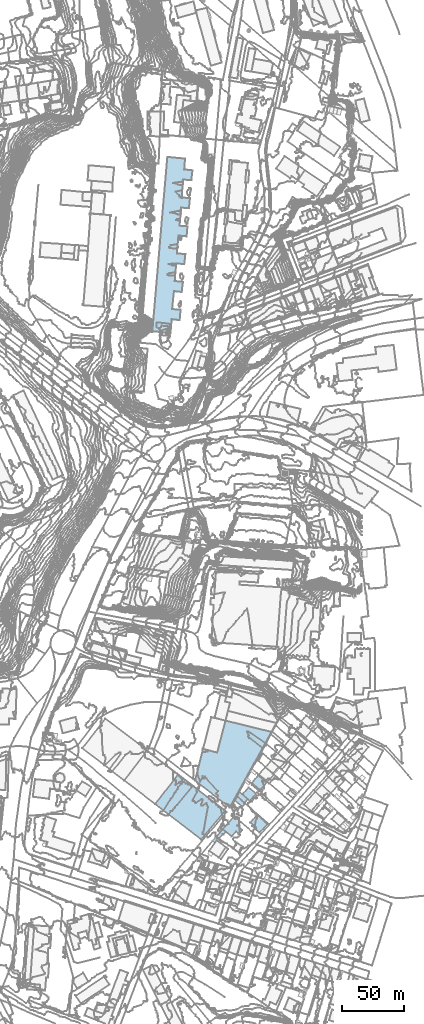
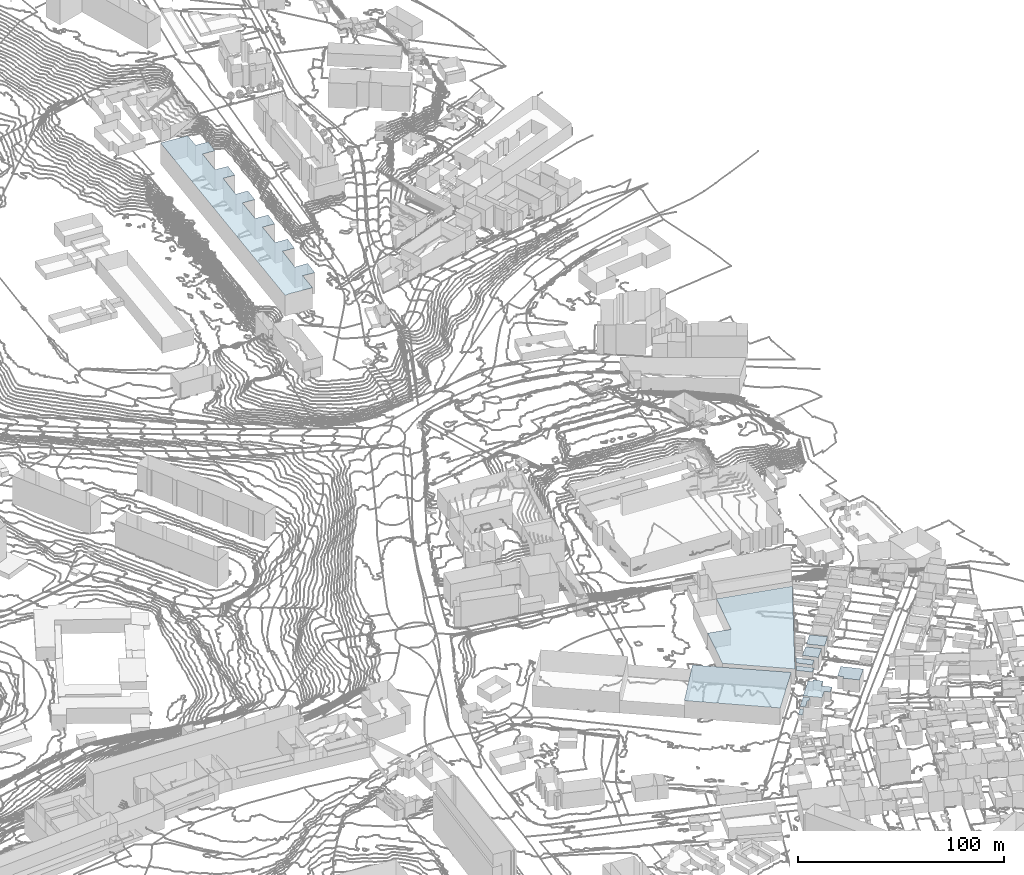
# Not in any storey, part 83 of 419: 11 roofs.
"""IFC2X3 model written with IfcOpenShell, lengths in metres."""

from ifc_helpers import new_model, si_unit, frame, origin_with_axes, place, context, subcontext, project, faceted_brep, element, save


model = new_model("IFC2X3")

# Units and contexts
model_context = context("Model", 3, precision=1e-05, world=origin_with_axes())
body_context = subcontext(model_context, "Body", "Model", "MODEL_VIEW")
ifc_project = project(units=[si_unit("AREAUNIT", "SQUARE_METRE"), si_unit("LENGTHUNIT", "METRE")], contexts=[model_context])

# Roofs
roof_1_placement = place(None, frame((885.6920204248, 239.0976909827, 79.6380020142), z_axis=(0.0, 0.0, 1.0), x_axis=(1.0, 0.0, 0.0)))
element("IfcRoof", 1, at=roof_1_placement, Name="Toiture 0", ShapeType="NOTDEFINED", context=body_context, shape_type="Brep", body=[
    faceted_brep([(13.8, -1.2000000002, 7.5619979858), (5.4, 6.2000000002, 7.5619979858), (0.0, 0.0, 7.5619979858), (2.3, -1.9000000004, 7.5619979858), (1.4, -3.0, 7.5619979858), (7.5, -8.2000000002, 7.5619979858)], [[[0, 1, 2]], [[3, 4, 5]], [[0, 2, 3]], [[3, 5, 0]]]),
])
roof_2_placement = place(None, frame((857.9920204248, 227.5976909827, 81.0899978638), z_axis=(0.0, 0.0, 1.0), x_axis=(1.0, 0.0, 0.0)))
element("IfcRoof", 2, at=roof_2_placement, Name="Toiture 0", ShapeType="NOTDEFINED", context=body_context, shape_type="Brep", body=[
    faceted_brep([(5.7999999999, 1.7999999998, 4.7100021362), (7.9, 4.0, 4.7100021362), (5.2999999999, 6.0999999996, 4.7100021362), (0.0, 0.0, 4.7100021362), (2.2, -1.5, 4.7100021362), (5.2999999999, 2.2000000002, 4.7100021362)], [[[0, 1, 2]], [[2, 3, 4]], [[5, 0, 2]], [[2, 4, 5]]]),
])
roof_3_placement = place(None, frame((873.0920204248, 257.1976909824, 80.2699981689), z_axis=(0.0, 0.0, 1.0), x_axis=(1.0, 0.0, 0.0)))
element("IfcRoof", 3, at=roof_3_placement, Name="Toiture 0", ShapeType="NOTDEFINED", context=body_context, shape_type="Brep", body=[
    faceted_brep([(8.4, -2.5999999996, 3.7300018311), (1.8, 3.2000000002, 3.7300018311), (0.0, 0.0, 3.7300018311), (5.9, -5.2000000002, 3.7300018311)], [[[0, 1, 2]], [[2, 3, 0]]]),
])
roof_4_placement = place(None, frame((808.3920204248, 254.0976909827, 80.3899993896), z_axis=(0.0, 0.0, 1.0), x_axis=(1.0, 0.0, 0.0)))
element("IfcRoof", 4, at=roof_4_placement, Name="Toiture 0", ShapeType="NOTDEFINED", context=body_context, shape_type="Brep", body=[
    faceted_brep([(56.8999999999, -5.2999999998, 10.2100006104), (18.5, 24.0999999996, 10.2100006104), (0.0, 0.0, 10.2100006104), (37.2, -28.7000000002, 10.2100006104)], [[[0, 1, 2]], [[2, 3, 0]]]),
])
roof_5_placement = place(None, frame((840.7920204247, 273.0976909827, 80.3578001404), z_axis=(0.0, 0.0, 1.0), x_axis=(1.0, 0.0, 0.0)))
element("IfcRoof", 5, at=roof_5_placement, Name="Toiture 0", ShapeType="NOTDEFINED", context=body_context, shape_type="Brep", body=[
    faceted_brep([(6.5, 25.7999999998, 9.4421998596), (0.0, 0.0, 9.4421998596), (28.1000000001, -21.7000000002, 9.4421998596), (62.0, 39.5999999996, 9.4421998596), (24.8, 48.7999999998, 9.4421998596), (18.0, 22.8999999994, 9.4421998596)], [[[0, 1, 2]], [[2, 3, 4]], [[5, 0, 2]], [[2, 4, 5]]]),
])
roof_6_placement = place(None, frame((854.8920204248, 223.9976909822, 80.7520005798), z_axis=(0.0, 0.0, 1.0), x_axis=(1.0, 0.0, 0.0)))
element("IfcRoof", 6, at=roof_6_placement, Name="Toiture 0", ShapeType="NOTDEFINED", context=body_context, shape_type="Brep", body=[
    faceted_brep([(1.8999999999, -1.1999999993, 3.4479994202), (4.7999999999, 2.5, 3.4479994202), (3.1, 3.6000000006, 3.4479994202), (0.0, 0.0, 3.4479994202)], [[[0, 1, 2]], [[2, 3, 0]]]),
])
roof_7_placement = place(None, frame((806.0920204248, 637.8976909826, 86.408400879), z_axis=(0.0, 0.0, 1.0), x_axis=(1.0, 0.0, 0.0)))
element("IfcRoof", 7, at=roof_7_placement, Name="Toiture 0", ShapeType="NOTDEFINED", context=body_context, shape_type="Brep", body=[
    faceted_brep([(26.0, 131.9000000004, 12.491599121), (26.6, 140.7000000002, 12.491599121), (12.2, 142.0999999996, 12.491599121), (0.0, 0.0, 12.491599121), (2.5, 0.2000000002, 12.491599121), (14.8, -1.0, 12.491599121), (15.7, 10.2000000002, 12.491599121), (22.2, 9.5, 12.491599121), (23.0, 18.0, 12.491599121), (17.6, 33.0, 12.491599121), (23.9, 32.4000000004, 12.491599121), (24.9, 40.5999999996, 12.491599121), (19.4, 55.5999999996, 12.491599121), (25.9, 54.9000000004, 12.491599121), (26.9, 63.0999999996, 12.491599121), (21.2, 78.2000000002, 12.491599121), (27.8, 77.5999999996, 12.491599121), (28.6, 85.7000000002, 12.491599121), (23.5, 100.9000000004, 12.491599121), (29.8, 100.4000000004, 12.491599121), (30.6, 108.5, 12.491599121), (25.1, 123.7000000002, 12.491599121), (31.7, 123.2000000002, 12.491599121), (32.6, 131.2000000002, 12.491599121), (18.2, 41.2000000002, 12.491599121), (20.0, 63.7000000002, 12.491599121), (22.1, 86.2000000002, 12.491599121), (23.8, 109.2000000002, 12.491599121), (16.1, 18.4000000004, 12.491599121)], [[[0, 1, 2]], [[2, 3, 4]], [[4, 5, 6]], [[6, 7, 8]], [[9, 10, 11]], [[12, 13, 14]], [[15, 16, 17]], [[18, 19, 20]], [[21, 22, 23]], [[0, 2, 4]], [[4, 6, 8]], [[9, 11, 24]], [[12, 14, 25]], [[15, 17, 26]], [[18, 20, 27]], [[21, 23, 0]], [[4, 8, 28]], [[28, 9, 24]], [[24, 12, 25]], [[15, 26, 18]], [[21, 0, 4]], [[4, 28, 24]], [[15, 18, 27]], [[27, 21, 4]], [[4, 24, 25]], [[15, 27, 4]], [[4, 25, 15]]]),
])
roof_8_placement = place(None, frame((874.8920204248, 260.3976909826, 80.0907972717), z_axis=(0.0, 0.0, 1.0), x_axis=(1.0, 0.0, 0.0)))
element("IfcRoof", 8, at=roof_8_placement, Name="Toiture 0", ShapeType="NOTDEFINED", context=body_context, shape_type="Brep", body=[
    faceted_brep([(8.6, -2.2000000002, 5.7092027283), (1.8999999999, 3.7999999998, 5.7092027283), (0.0, 0.0, 5.7092027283), (5.8999999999, -5.2999999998, 5.7092027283)], [[[0, 1, 2]], [[2, 3, 0]]]),
])
roof_9_placement = place(None, frame((886.8920204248, 271.2976909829, 79.9304003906), z_axis=(0.0, 0.0, 1.0), x_axis=(1.0, 0.0, 0.0)))
element("IfcRoof", 9, at=roof_9_placement, Name="Toiture 0", ShapeType="NOTDEFINED", context=body_context, shape_type="Brep", body=[
    faceted_brep([(0.0, 0.0, 6.2695996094), (6.7999999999, -5.8000000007, 6.2695996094), (11.8999999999, 0.2999999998, 6.2695996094), (5.1, 6.0999999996, 6.2695996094)], [[[0, 1, 2]], [[2, 3, 0]]]),
])
roof_10_placement = place(None, frame((879.2920204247, 262.1976909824, 80.0089987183), z_axis=(0.0, 0.0, 1.0), x_axis=(1.0, 0.0, 0.0)))
element("IfcRoof", 10, at=roof_10_placement, Name="Toiture 0", ShapeType="NOTDEFINED", context=body_context, shape_type="Brep", body=[
    faceted_brep([(4.9, 5.4000000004, 7.6910012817), (0.0, 0.0, 7.6910012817), (5.8, -5.5, 7.6910012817), (10.9, 0.2000000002, 7.6910012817)], [[[0, 1, 2]], [[2, 3, 0]]]),
])
roof_11_placement = place(None, frame((863.2920204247, 233.6976909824, 80.7084017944), z_axis=(0.0, 0.0, 1.0), x_axis=(1.0, 0.0, 0.0)))
element("IfcRoof", 11, at=roof_11_placement, Name="Toiture 0", ShapeType="NOTDEFINED", context=body_context, shape_type="Brep", body=[
    faceted_brep([(11.8, 2.9000000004, 5.8915982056), (14.5, 5.9000000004, 5.8915982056), (11.0, 9.2000000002, 5.8915982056), (10.1000000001, 8.1000000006, 5.8915982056), (8.3, 9.6000000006, 5.8915982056), (0.0, 0.0, 5.8915982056), (7.1000000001, -5.8999999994, 5.8915982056), (10.7000000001, -1.8999999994, 5.8915982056), (13.0, -3.7999999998, 5.8915982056), (15.8, -0.5999999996, 5.8915982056)], [[[0, 1, 2]], [[3, 4, 5]], [[5, 6, 7]], [[7, 8, 9]], [[0, 2, 3]], [[3, 5, 7]], [[7, 9, 0]], [[0, 3, 7]]]),
])

save(model, "model.ifc")
